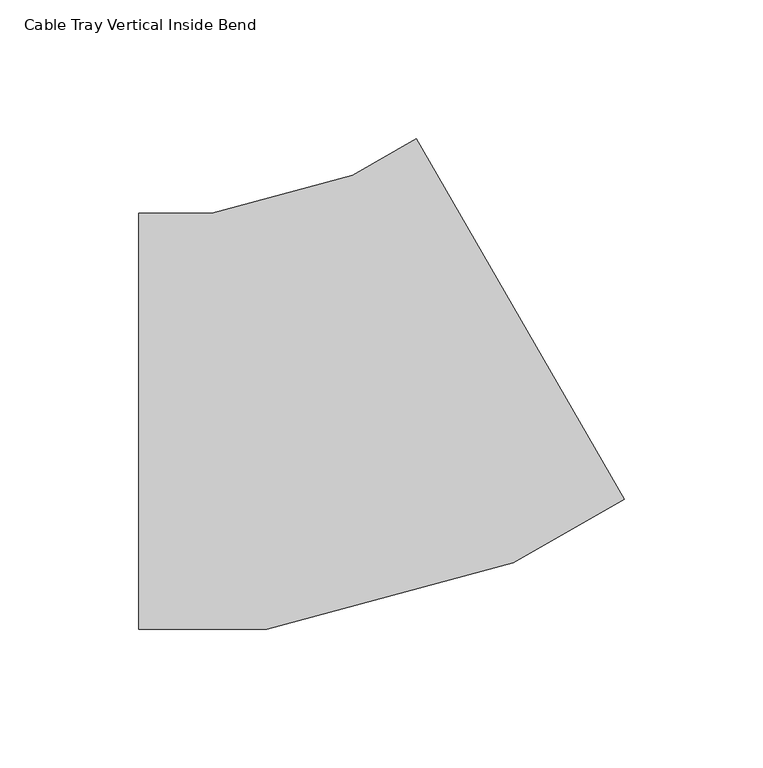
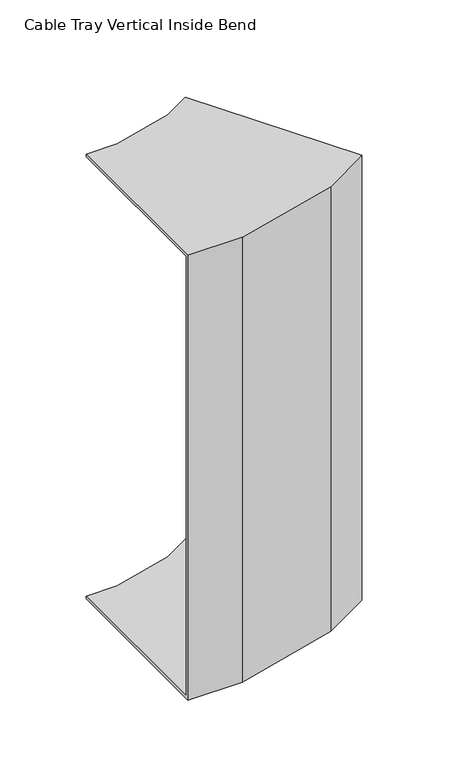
"""IFC4 building model written with IfcOpenShell, lengths in millimetres: cable carrier fitting geometry, Cable Tray Vertical Inside Bend : ELEC_ELV_TKG_N2402."""

from ifc_helpers import new_model, si_unit, origin, place, context, project, spatial, faceted_brep, source, transform, mapped, element, save


def cable_tray_vertical_inside_bend_f21016f6(model_context):
    return source(origin(), model_context, "Body", "Brep", [
        faceted_brep([(-73.6857921, 75.0, 200.0), (-73.6857921, 75.0, 197.46), (-73.6857921, -72.46, 197.46), (-73.6857921, -72.46, -197.46), (-73.6857921, 75.0, -197.46), (-73.6857921, 75.0, -200.0), (-73.6857921, -75.0, -200.0), (-73.6857921, -75.0, 200.0), (26.3139307, 101.7947592, 200.0), (101.3137229, -28.1091714, 200.0), (101.3137229, -28.1091714, -200.0), (26.3139307, 101.7947592, -200.0), (26.3139307, 101.7947592, -197.46), (100.0437264, -25.9094648, -197.46), (100.0437264, -25.9094648, 197.46), (26.3139307, 101.7947592, 197.46), (-47.355374, 75.0, 200.0), (-47.355374, 75.0, 197.46), (3.5110987, 88.6295866, 197.46), (60.4283663, -48.7813191, 197.46), (-27.9419567, -72.46, 197.46), (-27.9419567, -72.46, -197.46), (60.4283663, -48.7813191, -197.46), (3.5110987, 88.6295866, -197.46), (-47.355374, 75.0, -197.46), (-47.355374, 75.0, -200.0), (3.5110987, 88.6295866, -200.0), (61.4087668, -51.1482234, -200.0), (-27.6075604, -75.0, -200.0), (-27.6075604, -75.0, 200.0), (61.4087668, -51.1482234, 200.0), (3.5110987, 88.6295866, 200.0)], [[[0, 1, 2, 3, 4, 5, 6, 7]], [[8, 9, 10, 11, 12, 13, 14, 15]], [[1, 0, 16, 17]], [[2, 1, 17, 18, 15, 14, 19, 20]], [[3, 2, 20, 21]], [[4, 3, 21, 22, 13, 12, 23, 24]], [[5, 4, 24, 25]], [[6, 5, 25, 26, 11, 10, 27, 28]], [[7, 6, 28, 29]], [[0, 7, 29, 30, 9, 8, 31, 16]], [[17, 16, 31, 18]], [[21, 20, 19, 22]], [[25, 24, 23, 26]], [[29, 28, 27, 30]], [[18, 31, 8, 15]], [[22, 19, 14, 13]], [[26, 23, 12, 11]], [[30, 27, 10, 9]]]),
    ])


if __name__ == "__main__":
    model = new_model("IFC4")
    model_context = context("Model", 3, world=origin())
    ifc_project = project(units=[si_unit("LENGTHUNIT", "METRE", prefix="MILLI")], contexts=[model_context])
    site = spatial("IfcSite", under=ifc_project)
    building = spatial("IfcBuilding", under=site)
    placement = place(None, origin())
    cable_tray_vertical_inside_bend_shape = cable_tray_vertical_inside_bend_f21016f6(model_context)
    element("IfcCableCarrierFitting", 1, ObjectType="Cable Tray Vertical Inside Bend : ELEC_ELV_TKG_N2402", at=placement, inside=building, context=model_context, shape_type="MappedRepresentation", body=[
        mapped(cable_tray_vertical_inside_bend_shape, transform((0.0, 0.0, 0.0), x_axis=(1.0, 0.0, 0.0), y_axis=(0.0, 1.0, 0.0), z_axis=(0.0, 0.0, 1.0))),
    ])
    save(model, "model.ifc")
